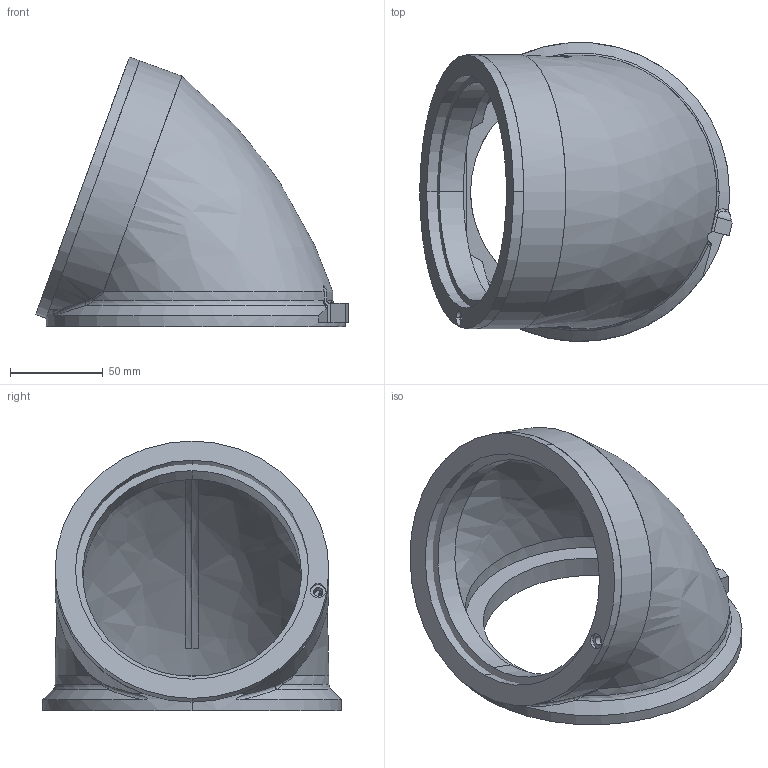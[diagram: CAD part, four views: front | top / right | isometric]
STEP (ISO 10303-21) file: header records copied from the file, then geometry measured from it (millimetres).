
FILE_DESCRIPTION (( 'STEP AP214' ), '1' );
FILE_NAME ('P-50iB-10L Wrist Knuckle.STEP', '2021-02-18T02:15:09', ( '' ), ( '' ), 'SwSTEP 2.0', 'SolidWorks 2019', '' );
FILE_SCHEMA (( 'AUTOMOTIVE_DESIGN' ));
Length unit declared in the file: inch
Products named in the file (1): P-50iB-10L Wrist Knuckle
Bounding box: 168.86 x 161.6 x 145.85 mm (x, y, z)
Surface area: 125797.9 mm2 (no closed solid volume)
Topology: 0 solids, 2 shells, 63 faces, 189 edges, 129 vertices
Faces by surface type: cylinder 23, bspline 19, plane 19, cone 2
Entity records: 5727 total; most frequent: CARTESIAN_POINT 4207, ORIENTED_EDGE 358, DIRECTION 218, EDGE_CURVE 189, VERTEX_POINT 129, B_SPLINE_CURVE_WITH_KNOTS 100, AXIS2_PLACEMENT_3D 89, EDGE_LOOP 74
